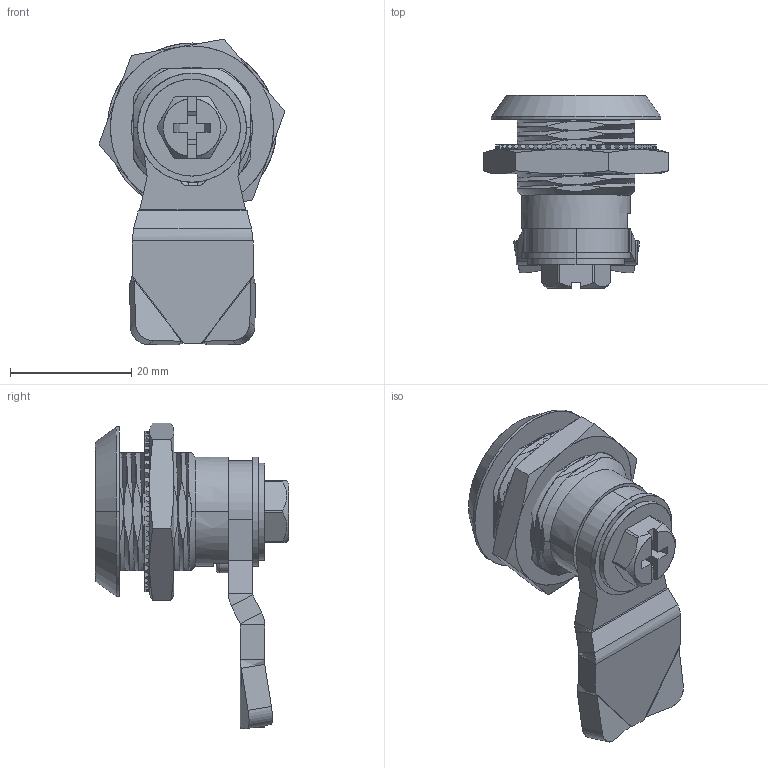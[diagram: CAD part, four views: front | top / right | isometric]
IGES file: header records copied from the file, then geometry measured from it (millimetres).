
Start section: SolidWorks IGES file using analytic representation for surfaces
Global section: file name: D:\尚坤工业图纸\SK1--门锁系列\SK1-063-1TX\SK1-063-1TX.IGS; native system: SolidWorks 2015; preprocessor: SolidWorks 2015; author: admin; date: 181101.103147; units: millimetre
Bounding box: 30.71 x 32 x 50.56 mm (x, y, z)
Surface area: 10816.9 mm2 (no closed solid volume)
Topology: 0 solids, 0 shells, 653 faces, 5690 edges, 5684 vertices
Faces by surface type: bspline 410, revolution 243
